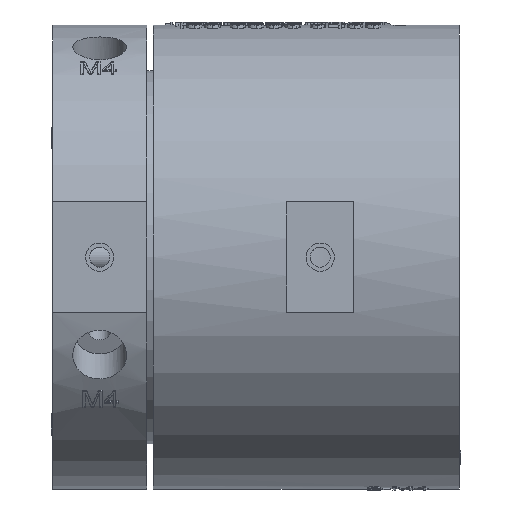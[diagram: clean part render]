
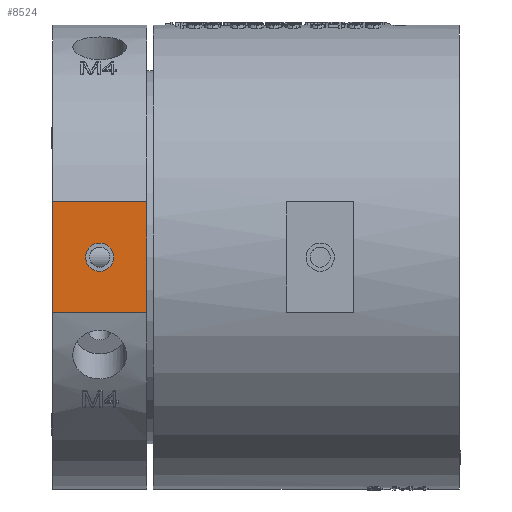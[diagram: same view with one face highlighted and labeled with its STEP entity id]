
A CAD part, front view. The second image highlights one B-rep face of the part: STEP entity #8524.
In plain terms, the highlighted planar face has unit normal (0, -1, 0).
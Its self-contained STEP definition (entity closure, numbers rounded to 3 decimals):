
#661=PLANE('',#24492);
#1350=LINE('',#45164,#3049);
#1351=LINE('',#45170,#3050);
#1372=LINE('',#45314,#3071);
#1373=LINE('',#45320,#3072);
#3049=VECTOR('',#27155,1.);
#3050=VECTOR('',#27162,1.);
#3071=VECTOR('',#27243,1.);
#3072=VECTOR('',#27250,1.);
#8524=ADVANCED_FACE('',(#9188,#9189),#661,.F.);
#9188=FACE_BOUND('',#10335,.T.);
#9189=FACE_BOUND('',#10336,.T.);
#10335=EDGE_LOOP('',(#15337));
#10336=EDGE_LOOP('',(#15338,#15339,#15340,#15341));
#15337=ORIENTED_EDGE('',*,*,#22591,.T.);
#15338=ORIENTED_EDGE('',*,*,#22819,.T.);
#15339=ORIENTED_EDGE('',*,*,#22816,.F.);
#15340=ORIENTED_EDGE('',*,*,#22762,.T.);
#15341=ORIENTED_EDGE('',*,*,#22759,.F.);
#19390=VERTEX_POINT('',#44319);
#19550=VERTEX_POINT('',#45165);
#19551=VERTEX_POINT('',#45166);
#19552=VERTEX_POINT('',#45171);
#19605=VERTEX_POINT('',#45315);
#22591=EDGE_CURVE('',#19390,#19390,#23579,.T.);
#22759=EDGE_CURVE('',#19550,#19551,#1350,.T.);
#22762=EDGE_CURVE('',#19552,#19551,#1351,.T.);
#22816=EDGE_CURVE('',#19552,#19605,#1372,.T.);
#22819=EDGE_CURVE('',#19550,#19605,#1373,.T.);
#23579=CIRCLE('',#24267,2.1);
#24267=AXIS2_PLACEMENT_3D('',#44318,#26737,#26738);
#24492=AXIS2_PLACEMENT_3D('',#45328,#27261,#27262);
#26737=DIRECTION('',(0.,1.,0.));
#26738=DIRECTION('',(1.,0.,0.));
#27155=DIRECTION('',(1.,0.,0.));
#27162=DIRECTION('',(0.,0.,1.));
#27243=DIRECTION('',(-1.,0.,0.));
#27250=DIRECTION('',(0.,0.,-1.));
#27261=DIRECTION('',(0.,1.,0.));
#27262=DIRECTION('',(0.,0.,1.));
#44318=CARTESIAN_POINT('',(7.,-33.5,0.));
#44319=CARTESIAN_POINT('',(9.1,-33.5,0.));
#45164=CARTESIAN_POINT('',(0.,-33.5,8.246));
#45165=CARTESIAN_POINT('',(0.,-33.5,8.246));
#45166=CARTESIAN_POINT('',(14.,-33.5,8.246));
#45170=CARTESIAN_POINT('',(14.,-33.5,0.));
#45171=CARTESIAN_POINT('',(14.,-33.5,-8.246));
#45314=CARTESIAN_POINT('',(0.,-33.5,-8.246));
#45315=CARTESIAN_POINT('',(0.,-33.5,-8.246));
#45320=CARTESIAN_POINT('',(0.,-33.5,0.));
#45328=CARTESIAN_POINT('',(0.,-33.5,0.));
